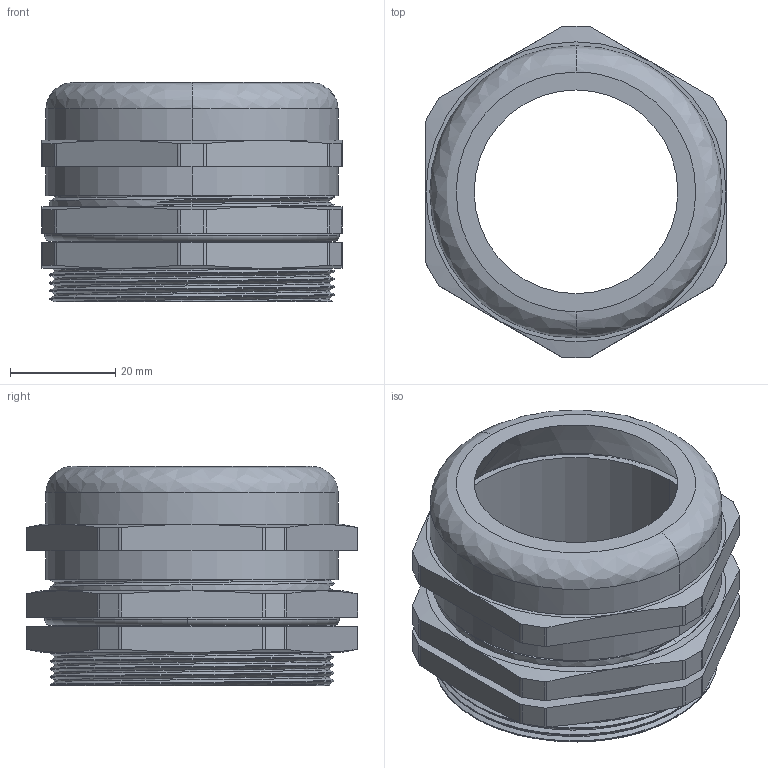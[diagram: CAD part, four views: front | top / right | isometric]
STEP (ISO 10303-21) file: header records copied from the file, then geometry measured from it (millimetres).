
FILE_DESCRIPTION (( 'STEP AP214' ), '1' );
FILE_NAME ('R5BCM54.STEP', '2022-10-11T06:44:49', ( '' ), ( '' ), 'SwSTEP 2.0', 'SolidWorks 2022', '' );
FILE_SCHEMA (( 'AUTOMOTIVE_DESIGN' ));
Length unit declared in the file: millimetre
Products named in the file (5): Фиксирующая гайка_R5BCM54; Корпус_R5BCM54; Уплотнительное кольцо_R5BCM54; Крышка_R5BCM54; R5BCM54
Assembly tree (4 placements, depth 2):
  R5BCM54
    Корпус_R5BCM54
    Уплотнительное кольцо_R5BCM54
    Фиксирующая гайка_R5BCM54
    Крышка_R5BCM54
Bounding box: 57 x 63 x 41.6 mm (x, y, z)
Volume: 25521.2 mm3; surface area: 29010.2 mm2
Topology: 4 solids, 4 shells, 197 faces, 521 edges, 336 vertices
Faces by surface type: cylinder 101, plane 54, cone 22, bspline 14, torus 6
Entity records: 14635 total; most frequent: CARTESIAN_POINT 10108, ORIENTED_EDGE 1042, DIRECTION 764, EDGE_CURVE 521, VERTEX_POINT 336, AXIS2_PLACEMENT_3D 289, EDGE_LOOP 209, ADVANCED_FACE 197
